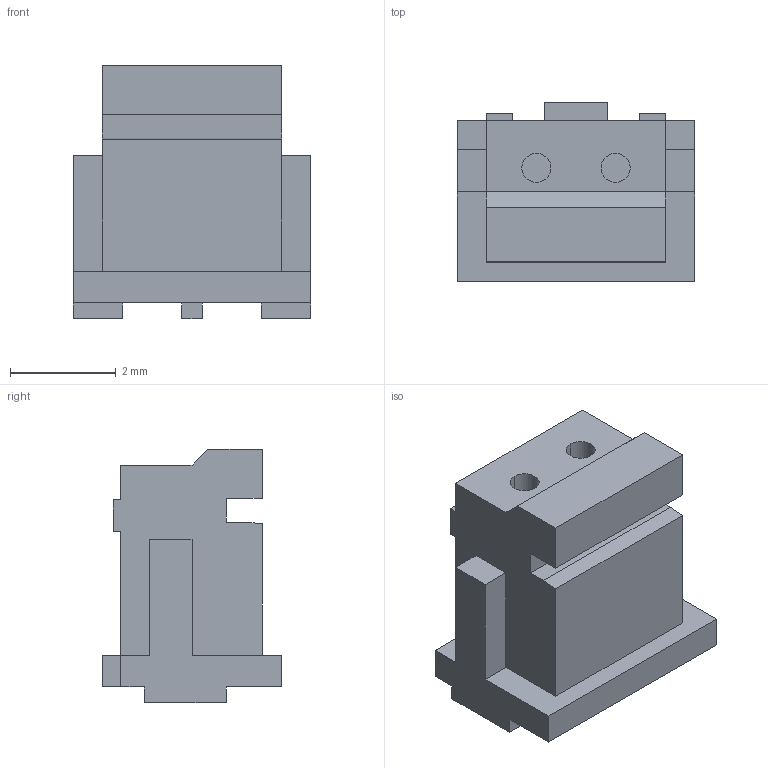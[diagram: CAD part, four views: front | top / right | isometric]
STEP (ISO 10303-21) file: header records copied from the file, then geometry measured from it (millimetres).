
FILE_DESCRIPTION (( 'STEP AP214' ), '1' );
FILE_NAME ('ZHR-2.STEP', '2012-02-07T01:45:39', ( ' ' ), ( ' ' ), 'SwSTEP 2.0', 'SolidWorks 2005235', '' );
FILE_SCHEMA (( 'AUTOMOTIVE_DESIGN' ));
Length unit declared in the file: millimetre
Products named in the file (1): ZHR-2
Bounding box: 4.5 x 3.4 x 4.8 mm (x, y, z)
Volume: 43.3 mm3; surface area: 101.8 mm2
Topology: 1 solids, 1 shells, 63 faces, 169 edges, 110 vertices
Faces by surface type: plane 59, cylinder 4
Entity records: 2643 total; most frequent: CARTESIAN_POINT 343, ORIENTED_EDGE 338, DIRECTION 305, EDGE_CURVE 169, VECTOR 161, LINE 161, VERTEX_POINT 110, AXIS2_PLACEMENT_3D 72
